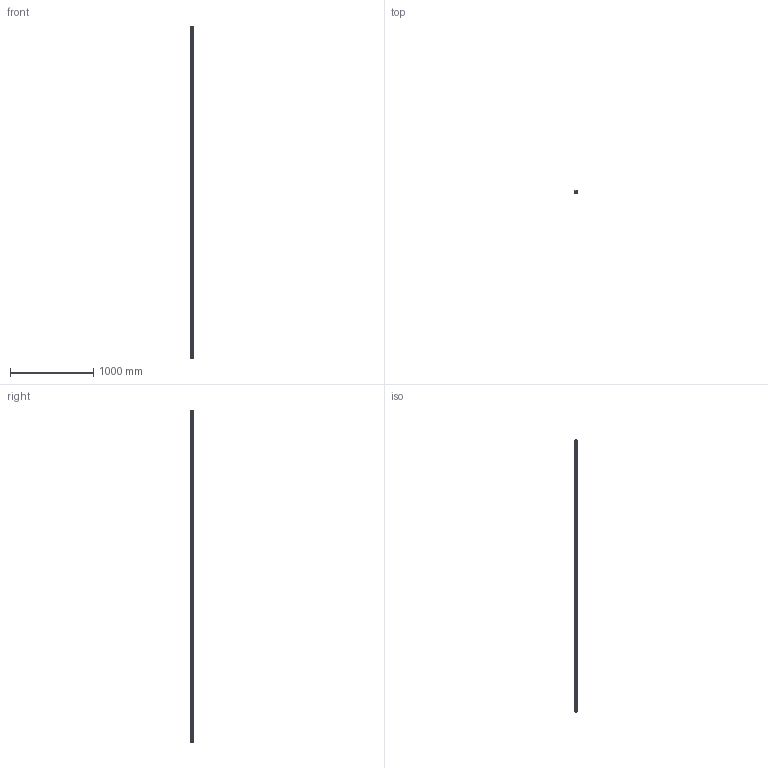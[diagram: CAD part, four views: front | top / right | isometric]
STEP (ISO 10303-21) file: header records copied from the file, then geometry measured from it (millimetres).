
FILE_DESCRIPTION((''),'2;1');
FILE_NAME('ROLLENSCHIENE_C','2021-12-23T05:45:46',('ac91sw'),(''),'CREO PARAMETRIC BY PTC INC, 2020044','CREO PARAMETRIC BY PTC INC, 2020044','');
FILE_SCHEMA(('AUTOMOTIVE_DESIGN { 1 0 10303 214 1 1 1 1 }'));
Length unit declared in the file: millimetre
Products named in the file (3): ROLLENSCHIENE_C_SKEL; ROLLENSCHIENE_C_RAIL1; ROLLENSCHIENE_C
Assembly tree (2 placements, depth 2):
  ROLLENSCHIENE_C
    ROLLENSCHIENE_C_SKEL
    ROLLENSCHIENE_C_RAIL1
Bounding box: 34 x 30.8 x 3996 mm (x, y, z)
Volume: 3269544 mm3; surface area: 573859.6 mm2
Topology: 1 solids, 1 shells, 460 faces, 1336 edges, 1074 vertices
Faces by surface type: cylinder 200, cone 200, plane 60
Entity records: 14181 total; most frequent: DIRECTION 2514, CARTESIAN_POINT 2307, ORIENTED_EDGE 1876, EDGE_CURVE 938, AXIS2_PLACEMENT_3D 889, VECTOR 736, LINE 736, VERTEX_POINT 580
